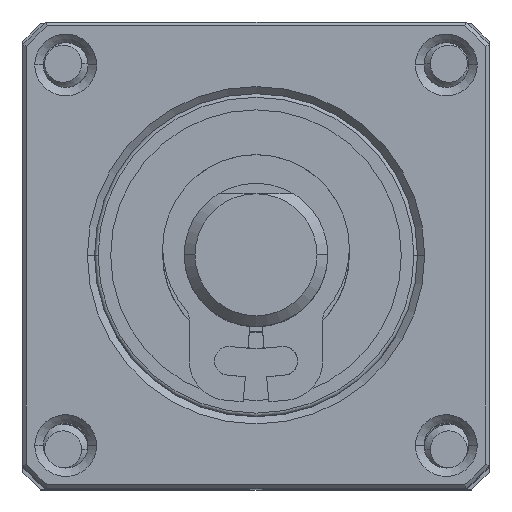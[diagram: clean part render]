
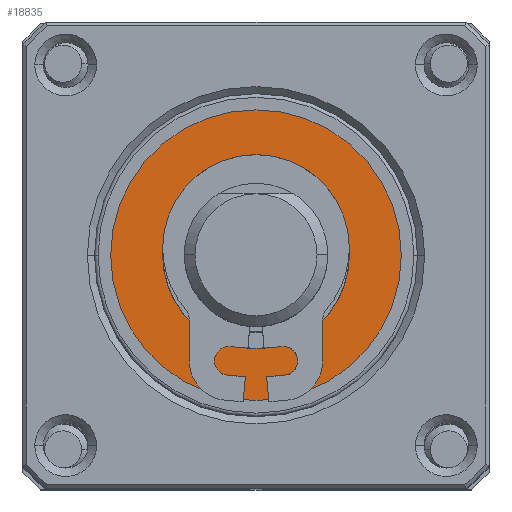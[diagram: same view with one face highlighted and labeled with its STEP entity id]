
A CAD part, top view. The second image highlights one B-rep face of the part: STEP entity #18835.
In plain terms, the highlighted planar face has unit normal (0, 0, 1).
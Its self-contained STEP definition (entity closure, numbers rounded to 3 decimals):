
#613 = DIRECTION ( 'NONE',  ( 1., 0., 0. ) ) ;
#924 = DIRECTION ( 'NONE',  ( 1., 0., 0. ) ) ;
#1225 = CARTESIAN_POINT ( 'NONE',  ( 0., -2.6, 23.434 ) ) ;
#1628 = ORIENTED_EDGE ( 'NONE', *, *, #19212, .F. ) ;
#2493 = DIRECTION ( 'NONE',  ( 0., 0., 1. ) ) ;
#3135 = DIRECTION ( 'NONE',  ( 1., 0., 0. ) ) ;
#3707 = AXIS2_PLACEMENT_3D ( 'NONE', #16252, #2493, #3882 ) ;
#3882 = DIRECTION ( 'NONE',  ( 0., 1., 0. ) ) ;
#4392 = CIRCLE ( 'NONE', #16927, 2.6 ) ;
#4614 = DIRECTION ( 'NONE',  ( 0., 0., 1. ) ) ;
#4723 = CARTESIAN_POINT ( 'NONE',  ( 0., 0., 23.434 ) ) ;
#5015 = AXIS2_PLACEMENT_3D ( 'NONE', #11668, #13074, #19209 ) ;
#6280 = ORIENTED_EDGE ( 'NONE', *, *, #17035, .T. ) ;
#6742 = EDGE_CURVE ( 'NONE', #8875, #12425, #19807, .T. ) ;
#6801 = EDGE_CURVE ( 'NONE', #15785, #16287, #12094, .T. ) ;
#8357 = CARTESIAN_POINT ( 'NONE',  ( 0., 0., 23.434 ) ) ;
#8626 = FACE_OUTER_BOUND ( 'NONE', #11982, .T. ) ;
#8875 = VERTEX_POINT ( 'NONE', #10594 ) ;
#9104 = CARTESIAN_POINT ( 'NONE',  ( -4.05, 0., 23.434 ) ) ;
#9131 = CARTESIAN_POINT ( 'NONE',  ( 0., 2.6, 23.434 ) ) ;
#10060 = DIRECTION ( 'NONE',  ( 0., 0., 1. ) ) ;
#10267 = ORIENTED_EDGE ( 'NONE', *, *, #6801, .F. ) ;
#10594 = CARTESIAN_POINT ( 'NONE',  ( 4.05, 0., 23.434 ) ) ;
#11668 = CARTESIAN_POINT ( 'NONE',  ( 0., 0., 23.434 ) ) ;
#11684 = DIRECTION ( 'NONE',  ( 0., 0., 1. ) ) ;
#11982 = EDGE_LOOP ( 'NONE', ( #15395, #6280 ) ) ;
#12094 = CIRCLE ( 'NONE', #5015, 2.6 ) ;
#12419 = CIRCLE ( 'NONE', #13689, 4.05 ) ;
#12425 = VERTEX_POINT ( 'NONE', #9104 ) ;
#12717 = EDGE_LOOP ( 'NONE', ( #10267, #1628 ) ) ;
#13074 = DIRECTION ( 'NONE',  ( 0., 0., 1. ) ) ;
#13273 = CARTESIAN_POINT ( 'NONE',  ( 0., 0., 23.434 ) ) ;
#13689 = AXIS2_PLACEMENT_3D ( 'NONE', #4723, #4614, #3135 ) ;
#14540 = PLANE ( 'NONE',  #3707 ) ;
#15395 = ORIENTED_EDGE ( 'NONE', *, *, #6742, .T. ) ;
#15785 = VERTEX_POINT ( 'NONE', #1225 ) ;
#16252 = CARTESIAN_POINT ( 'NONE',  ( 0., 2.6, 23.434 ) ) ;
#16287 = VERTEX_POINT ( 'NONE', #9131 ) ;
#16898 = AXIS2_PLACEMENT_3D ( 'NONE', #8357, #10060, #613 ) ;
#16927 = AXIS2_PLACEMENT_3D ( 'NONE', #13273, #11684, #924 ) ;
#17035 = EDGE_CURVE ( 'NONE', #12425, #8875, #12419, .T. ) ;
#18835 = ADVANCED_FACE ( 'NONE', ( #19078, #8626 ), #14540, .T. ) ;
#19078 = FACE_BOUND ( 'NONE', #12717, .T. ) ;
#19209 = DIRECTION ( 'NONE',  ( 1., 0., 0. ) ) ;
#19212 = EDGE_CURVE ( 'NONE', #16287, #15785, #4392, .T. ) ;
#19807 = CIRCLE ( 'NONE', #16898, 4.05 ) ;
